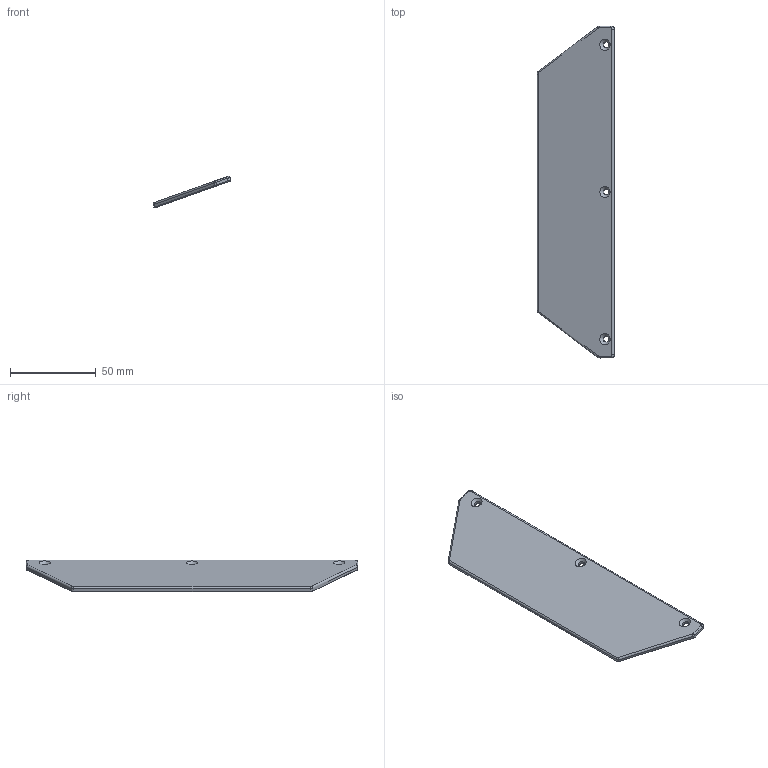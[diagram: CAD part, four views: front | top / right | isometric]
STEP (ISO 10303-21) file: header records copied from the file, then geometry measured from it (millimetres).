
FILE_DESCRIPTION(/* description */ ('STEP AP242 Edition 2','CAx-IF Rec.Pracs.---Representation and Presentation of Product Manufacturing Information (PMI)---4.0---2014-10-13','CAx-IF Rec.Pracs.---3D Tessellated Geometry---0.4---2014-09-14','2;1','CAx-IF Rec.Pracs.---User Defined Attributes---1.5---2016-08-15'),/* implementation_level */ '2;1');
FILE_NAME(/* name */ 'Chassis No Suspension - tail_cover',/* time_stamp */ '2026-10-25T14:46:20Z',/* author */ (''),/* organization */ (''),/* preprocessor_version */ 'ST-DEVELOPER v20',/* originating_system */ 'ONSHAPE BY PTC INC, 1.222',/* authorisation */ ' ');
FILE_SCHEMA (('AP242_MANAGED_MODEL_BASED_3D_ENGINEERING_MIM_LF { 1 0 10303 442 3 1 4 }'));
Length unit declared in the file: metre
Products named in the file (1): tail_cover
Bounding box: 45.56 x 194 x 18.38 mm (x, y, z)
Volume: 24404.8 mm3; surface area: 17495 mm2
Topology: 1 solids, 1 shells, 44 faces, 102 edges, 60 vertices
Faces by surface type: cylinder 15, plane 14, cone 9, torus 6
Full cylindrical faces by diameter (mm): 3.6 x3
Entity records: 1276 total; most frequent: DIRECTION 240, CARTESIAN_POINT 207, ORIENTED_EDGE 204, EDGE_CURVE 102, AXIS2_PLACEMENT_3D 93, VERTEX_POINT 60, LINE 54, VECTOR 54
